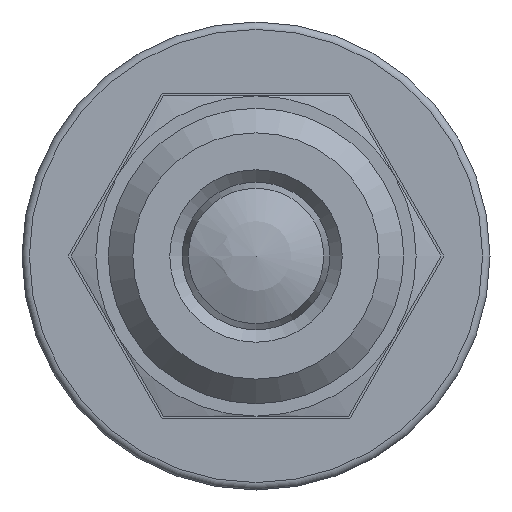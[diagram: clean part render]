
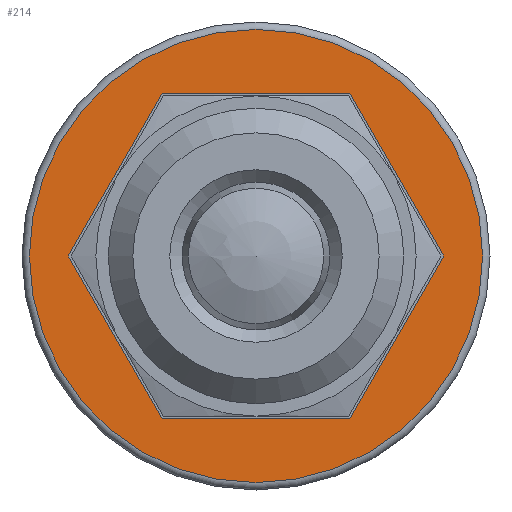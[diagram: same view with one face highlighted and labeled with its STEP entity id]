
A CAD part, front view. The second image highlights one B-rep face of the part: STEP entity #214.
In plain terms, the highlighted planar face has unit normal (0, -1, 0).
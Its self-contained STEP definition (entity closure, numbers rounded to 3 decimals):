
#214 = ADVANCED_FACE( '', ( #355, #356 ), #357, .F. );
#355 = FACE_BOUND( '', #558, .T. );
#356 = FACE_OUTER_BOUND( '', #559, .T. );
#357 = PLANE( '', #560 );
#558 = EDGE_LOOP( '', ( #867, #868, #869, #870, #871, #872 ) );
#559 = EDGE_LOOP( '', ( #873 ) );
#560 = AXIS2_PLACEMENT_3D( '', #874, #875, #876 );
#867 = ORIENTED_EDGE( '', *, *, #1038, .F. );
#868 = ORIENTED_EDGE( '', *, *, #1039, .F. );
#869 = ORIENTED_EDGE( '', *, *, #1040, .F. );
#870 = ORIENTED_EDGE( '', *, *, #1041, .F. );
#871 = ORIENTED_EDGE( '', *, *, #1042, .F. );
#872 = ORIENTED_EDGE( '', *, *, #1027, .F. );
#873 = ORIENTED_EDGE( '', *, *, #1043, .T. );
#874 = CARTESIAN_POINT( '', ( 9.2, 23., 0. ) );
#875 = DIRECTION( '', ( 0., 1., 0. ) );
#876 = DIRECTION( '', ( 0., 0., 1. ) );
#1027 = EDGE_CURVE( '', #1164, #1165, #1166, .T. );
#1038 = EDGE_CURVE( '', #1185, #1164, #1186, .T. );
#1039 = EDGE_CURVE( '', #1187, #1185, #1188, .T. );
#1040 = EDGE_CURVE( '', #1189, #1187, #1190, .T. );
#1041 = EDGE_CURVE( '', #1191, #1189, #1192, .T. );
#1042 = EDGE_CURVE( '', #1165, #1191, #1193, .T. );
#1043 = EDGE_CURVE( '', #1194, #1194, #1195, .T. );
#1164 = VERTEX_POINT( '', #1432 );
#1165 = VERTEX_POINT( '', #1433 );
#1166 = LINE( '', #1434, #1435 );
#1185 = VERTEX_POINT( '', #1462 );
#1186 = LINE( '', #1463, #1464 );
#1187 = VERTEX_POINT( '', #1465 );
#1188 = LINE( '', #1466, #1467 );
#1189 = VERTEX_POINT( '', #1468 );
#1190 = LINE( '', #1469, #1470 );
#1191 = VERTEX_POINT( '', #1471 );
#1192 = LINE( '', #1472, #1473 );
#1193 = LINE( '', #1474, #1475 );
#1194 = VERTEX_POINT( '', #1476 );
#1195 = CIRCLE( '', #1477, 9.2 );
#1432 = CARTESIAN_POINT( '', ( 3.811, 23., 6.6 ) );
#1433 = CARTESIAN_POINT( '', ( -3.811, 23., 6.6 ) );
#1434 = CARTESIAN_POINT( '', ( 3.811, 23., 6.6 ) );
#1435 = VECTOR( '', #1615, 1000. );
#1462 = CARTESIAN_POINT( '', ( 7.621, 23., 0. ) );
#1463 = CARTESIAN_POINT( '', ( 7.621, 23., 0. ) );
#1464 = VECTOR( '', #1630, 1000. );
#1465 = CARTESIAN_POINT( '', ( 3.811, 23., -6.6 ) );
#1466 = CARTESIAN_POINT( '', ( 3.811, 23., -6.6 ) );
#1467 = VECTOR( '', #1631, 1000. );
#1468 = CARTESIAN_POINT( '', ( -3.811, 23., -6.6 ) );
#1469 = CARTESIAN_POINT( '', ( -3.811, 23., -6.6 ) );
#1470 = VECTOR( '', #1632, 1000. );
#1471 = CARTESIAN_POINT( '', ( -7.621, 23., 0. ) );
#1472 = CARTESIAN_POINT( '', ( -7.621, 23., 0. ) );
#1473 = VECTOR( '', #1633, 1000. );
#1474 = CARTESIAN_POINT( '', ( -3.811, 23., 6.6 ) );
#1475 = VECTOR( '', #1634, 1000. );
#1476 = CARTESIAN_POINT( '', ( 0., 23., -9.2 ) );
#1477 = AXIS2_PLACEMENT_3D( '', #1635, #1636, #1637 );
#1615 = DIRECTION( '', ( -1., 0., 0. ) );
#1630 = DIRECTION( '', ( -0.5, 0., 0.866 ) );
#1631 = DIRECTION( '', ( 0.5, 0., 0.866 ) );
#1632 = DIRECTION( '', ( 1., 0., 0. ) );
#1633 = DIRECTION( '', ( 0.5, 0., -0.866 ) );
#1634 = DIRECTION( '', ( -0.5, 0., -0.866 ) );
#1635 = CARTESIAN_POINT( '', ( 0., 23., 0. ) );
#1636 = DIRECTION( '', ( 0., -1., 0. ) );
#1637 = DIRECTION( '', ( 0., 0., -1. ) );
